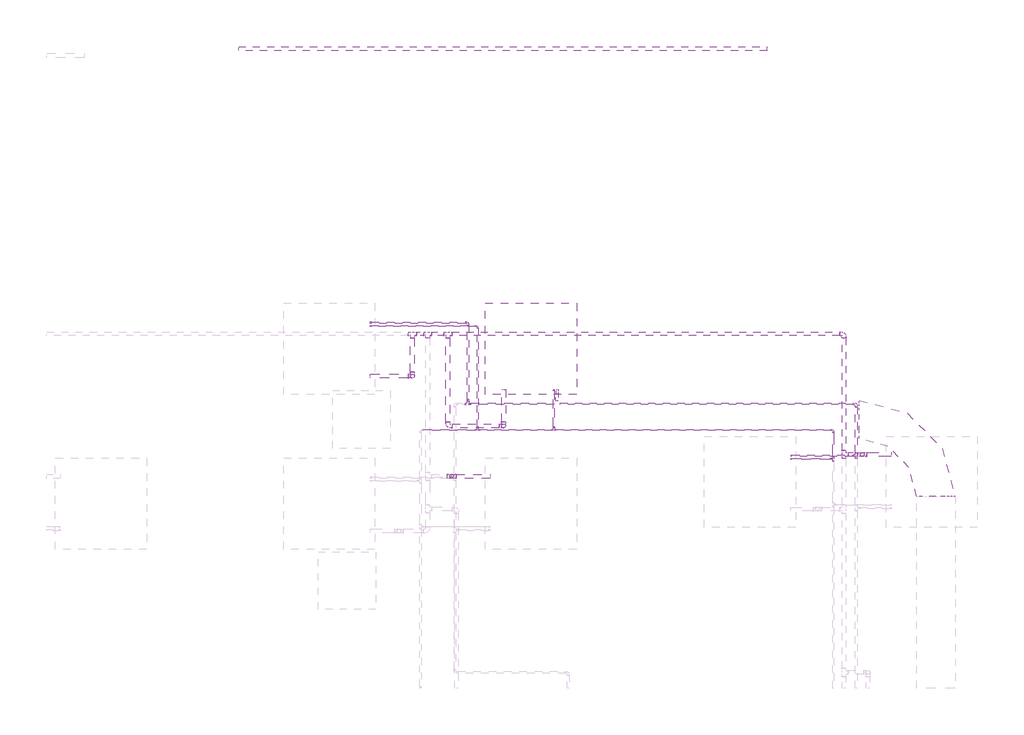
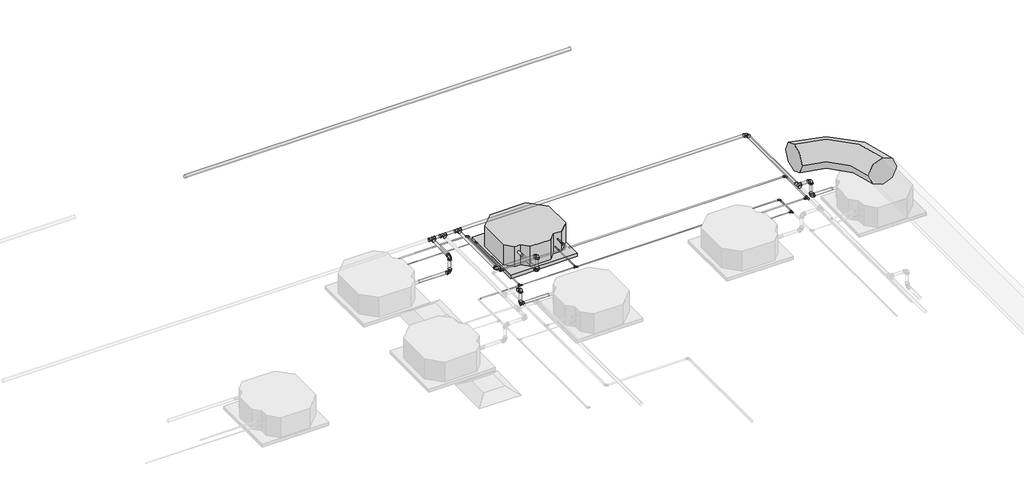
# One storey, part 22 of 22: 35 pipe fittings, 32 pipe segments, 1 duct fitting, 1 proxy.
"""IFC4 building model written with IfcOpenShell, lengths in millimetres."""

from ifc_helpers import new_model, si_unit, point, frame, frame_2d, origin, place, context, project, spatial, circle_curve, trimmed, segment, composite_curve, outline, extrude, transform, mapped, element, save
from components import mechanical_equipment_53173f38, duct_fitting_2_d_33ab650d, pipe_fitting_45771724, pipe_fitting_144f4440, pipe_fitting_14eb6376, pipe_fitting_103655aa, pipe_fitting_bac944c5, pipe_fitting_bc9da119, pipe_fitting_cf389c47, pipe_fitting_c900cfc2, pipe_fitting_16c020f5, pipe_fitting_0e110a5f, pipe_fitting_afe73776, pipe_fitting_09966660, pipe_fitting_501e5992, pipe_fitting_59d1f3e3, pipe_fitting_648138cd, pipe_fitting_58ab9b66, pipe_fitting_da16c1b3, pipe_fitting_5a6d96d3, pipe_fitting_3e80353c

model = new_model("IFC4")

# Units and contexts
model_context = context("Model", 3, world=origin())
ifc_project = project(units=[si_unit("LENGTHUNIT", "METRE", prefix="MILLI")], contexts=[model_context])

# Site, building, storey
site = spatial("IfcSite", under=ifc_project)
building = spatial("IfcBuilding", under=site)
storey = spatial("IfcBuildingStorey", under=building, Name="Nível 2", Elevation=3880.0)

# Proxy
placement = place(None, origin())
mechanical_equipment_shape = mechanical_equipment_53173f38(model_context)
element("IfcBuildingElementProxy", 1, Name="Midea_VRF_Indoor_4-way Cassette_MI-90(100,112,140)Q4_DHN1-D (2nd DC) : MI2-140Q4DHN1", ObjectType="Midea_VRF_Indoor_4-way Cassette_MI-90(100,112,140)Q4_DHN1-D (2nd DC) : MI2-140Q4DHN1", at=placement, inside=storey, context=model_context, shape_type="MappedRepresentation", body=[
    mapped(mechanical_equipment_shape, transform((25897.5040419, 9352.7445682, 6880.0), x_axis=(0.0, -1.0, 0.0), y_axis=(1.0, 0.0, 0.0), z_axis=(0.0, 0.0, 1.0))),
])

# Duct fitting
duct_fitting_2_d_shape = duct_fitting_2_d_33ab650d(model_context)
element("IfcDuctFitting", 2, ObjectType="M_Cotovelo redondo : 2 D", at=placement, inside=storey, context=model_context, shape_type="MappedRepresentation", body=[
    mapped(duct_fitting_2_d_shape, transform((30114.7064473, 8616.6989842, 7501.0), x_axis=(0.0, 1.0, 0.0), y_axis=(-1.0, 0.0, 0.0), z_axis=(0.0, 0.0, 1.0))),
])

# Pipe fittings
pipe_fitting_shape = pipe_fitting_45771724(model_context)
element("IfcPipeFitting", 3, ObjectType="Cotovelo - PVC - CW : Padrão", at=placement, inside=storey, context=model_context, shape_type="MappedRepresentation", body=[
    mapped(pipe_fitting_shape, transform((25612.5040419, 8547.7445683, 7132.3), x_axis=(0.0, -0.9999999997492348, -2.239487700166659e-05), y_axis=(0.0, -2.239487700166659e-05, 0.9999999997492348), z_axis=(-1.0, 0.0, 0.0))),
])
pipe_fitting_2_shape = pipe_fitting_144f4440(model_context)
element("IfcPipeFitting", 4, ObjectType="Cotovelo - PVC - CW : Padrão", at=placement, inside=storey, context=model_context, shape_type="MappedRepresentation", body=[
    mapped(pipe_fitting_2_shape, transform((29157.3882959, 9508.652743, 7360.6313654), x_axis=(0.0, 1.0, 0.0), y_axis=(-1.0, 0.0, 0.0), z_axis=(0.0, 0.0, 1.0))),
])
element("IfcPipeFitting", 5, ObjectType="Cotovelo - PVC - CW : Padrão", at=placement, inside=storey, context=model_context, shape_type="MappedRepresentation", body=[
    mapped(pipe_fitting_2_shape, transform((25612.5040419, 8547.7445683, 7360.6313654), x_axis=(0.0, 0.0, 1.0), y_axis=(-1.0, 0.0, 0.0), z_axis=(0.0, -1.0, 0.0))),
])
element("IfcPipeFitting", 6, ObjectType="Cotovelo - PVC - CW : Padrão", at=placement, inside=storey, context=model_context, shape_type="MappedRepresentation", body=[
    mapped(pipe_fitting_2_shape, transform((25032.5040419, 8547.7445683, 7360.6313654), x_axis=(0.0, -1.0, 0.0), y_axis=(1.0, 0.0, 0.0), z_axis=(0.0, 0.0, 1.0))),
])
element("IfcPipeFitting", 7, ObjectType="Cotovelo - PVC - CW : Padrão", at=placement, inside=storey, context=model_context, shape_type="MappedRepresentation", body=[
    mapped(pipe_fitting_2_shape, transform((24662.5040418, 9067.7445682, 7360.6313654), x_axis=(0.0, 0.0, 1.0), y_axis=(0.0, 1.0, 0.0), z_axis=(-1.0, 0.0, 0.0))),
])
element("IfcPipeFitting", 8, ObjectType="Cotovelo - PVC - CW : Padrão", at=placement, inside=storey, context=model_context, shape_type="MappedRepresentation", body=[
    mapped(pipe_fitting_2_shape, transform((25072.504042, 8023.4946683, 7360.6313654), x_axis=(0.0, 0.0, 1.0), y_axis=(-1.0, 0.0, 0.0), z_axis=(0.0, -1.0, 0.0))),
])
element("IfcPipeFitting", 9, ObjectType="Cotovelo - PVC - CW : Padrão", at=placement, inside=storey, context=model_context, shape_type="MappedRepresentation", body=[
    mapped(pipe_fitting_2_shape, transform((29348.0094067, 8251.525628, 7360.6313654), x_axis=(0.0, 0.0, 1.0), y_axis=(-1.0, 0.0, 0.0), z_axis=(0.0, -1.0, 0.0))),
])
pipe_fitting_3_shape = pipe_fitting_14eb6376(model_context)
element("IfcPipeFitting", 10, ObjectType="Tê de redução - PVC - CW : Padrão", at=placement, inside=storey, context=model_context, shape_type="MappedRepresentation", body=[
    mapped(pipe_fitting_3_shape, transform((25032.5040419, 9508.652743, 7360.6313654), x_axis=(1.0, 0.0, 0.0), y_axis=(0.0, 1.0, 0.0), z_axis=(0.0, 0.0, 1.0))),
])
element("IfcPipeFitting", 11, ObjectType="Tê de redução - PVC - CW : Padrão", at=placement, inside=storey, context=model_context, shape_type="MappedRepresentation", body=[
    mapped(pipe_fitting_3_shape, transform((24662.5040418, 9508.652743, 7360.6313654), x_axis=(1.0, 0.0, 0.0), y_axis=(0.0, 1.0, 0.0), z_axis=(0.0, 0.0, 1.0))),
])
element("IfcPipeFitting", 12, ObjectType="Tê de redução - PVC - CW : Padrão", at=placement, inside=storey, context=model_context, shape_type="MappedRepresentation", body=[
    mapped(pipe_fitting_3_shape, transform((24822.5040418, 9508.652743, 7360.6313654), x_axis=(1.0, 0.0, 0.0), y_axis=(0.0, 1.0, 0.0), z_axis=(0.0, 0.0, 1.0))),
])
element("IfcPipeFitting", 13, ObjectType="Tê de redução - PVC - CW : Padrão", at=placement, inside=storey, context=model_context, shape_type="MappedRepresentation", body=[
    mapped(pipe_fitting_3_shape, transform((29157.3882959, 8251.525628, 7360.6313654), x_axis=(0.0, 1.0, 0.0), y_axis=(-1.0, 0.0, 0.0), z_axis=(0.0, 0.0, 1.0))),
])
pipe_fitting_4_shape = pipe_fitting_103655aa(model_context)
element("IfcPipeFitting", 14, ObjectType="Cotovelo - PVC - CW : Padrão", at=placement, inside=storey, context=model_context, shape_type="MappedRepresentation", body=[
    mapped(pipe_fitting_4_shape, transform((29348.0094067, 8251.525628, 7132.3), x_axis=(-0.9999999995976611, 0.0, -2.83668442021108e-05), y_axis=(-2.83668442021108e-05, 0.0, 0.9999999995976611), z_axis=(0.0, 1.0, 0.0))),
])
pipe_fitting_5_shape = pipe_fitting_bac944c5(model_context)
element("IfcPipeFitting", 15, ObjectType="Cotovelo - PVC - CW : Padrão", at=placement, inside=storey, context=model_context, shape_type="MappedRepresentation", body=[
    mapped(pipe_fitting_5_shape, transform((25072.504042, 8023.4946683, 7132.3), x_axis=(-0.9999999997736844, 0.0, -2.127513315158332e-05), y_axis=(-2.127513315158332e-05, 0.0, 0.9999999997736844), z_axis=(0.0, 1.0, 0.0))),
])
pipe_fitting_6_shape = pipe_fitting_bc9da119(model_context)
element("IfcPipeFitting", 16, ObjectType="Cotovelo - PVC - CW : Padrão", at=placement, inside=storey, context=model_context, shape_type="MappedRepresentation", body=[
    mapped(pipe_fitting_6_shape, transform((24662.5040418, 9067.7445682, 7132.3), x_axis=(0.9999999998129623, 0.0, -1.9341030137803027e-05), y_axis=(1.9341030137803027e-05, 0.0, 0.9999999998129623), z_axis=(0.0, -1.0, 0.0))),
])
pipe_fitting_7_shape = pipe_fitting_cf389c47(model_context)
element("IfcPipeFitting", 17, ObjectType="Redutor de acoplamento - PVC - CW : Padrão", at=placement, inside=storey, context=model_context, shape_type="MappedRepresentation", body=[
    mapped(pipe_fitting_7_shape, transform((26170.7148555, 8881.3625683, 7132.3047978), x_axis=(0.0, 0.9999999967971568, 8.003553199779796e-05), y_axis=(-1.0, 0.0, 0.0), z_axis=(0.0, -8.003553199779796e-05, 0.9999999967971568))),
])
pipe_fitting_8_shape = pipe_fitting_c900cfc2(model_context)
element("IfcPipeFitting", 18, ObjectType="Bucha de redução reta - Soldada - CU : Padrão", at=placement, inside=storey, context=model_context, shape_type="MappedRepresentation", body=[
    mapped(pipe_fitting_8_shape, transform((24222.5040419, 9625.9553818, 7132.3085101), x_axis=(1.0, 0.0, 0.0), y_axis=(0.0, 1.0, 0.0), z_axis=(0.0, 0.0, 1.0))),
])
pipe_fitting_9_shape = pipe_fitting_16c020f5(model_context)
element("IfcPipeFitting", 19, ObjectType="Cotovelo - Soldado - CU : Padrão", at=placement, inside=storey, context=model_context, shape_type="MappedRepresentation", body=[
    mapped(pipe_fitting_9_shape, transform((25242.5040418, 9625.9553818, 7132.3), x_axis=(0.0, 1.0, 0.0), y_axis=(-0.999999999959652, 0.0, 8.983093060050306e-06), z_axis=(8.983093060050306e-06, 0.0, 0.999999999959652))),
])
pipe_fitting_10_shape = pipe_fitting_0e110a5f(model_context)
element("IfcPipeFitting", 20, ObjectType="Cotovelo - Soldado - CU : Padrão", at=placement, inside=storey, context=model_context, shape_type="MappedRepresentation", body=[
    mapped(pipe_fitting_10_shape, transform((29286.1108591, 8779.9222462, 7132.3), x_axis=(0.0, 1.0, 0.0), y_axis=(-1.0, 0.0, 0.0), z_axis=(0.0, 0.0, 1.0))),
])
pipe_fitting_11_shape = pipe_fitting_afe73776(model_context)
element("IfcPipeFitting", 21, ObjectType="Bucha de redução reta - Soldada - CU : Padrão", at=placement, inside=storey, context=model_context, shape_type="MappedRepresentation", body=[
    mapped(pipe_fitting_11_shape, transform((25075.9503592, 8011.7054819, 7132.3003462), x_axis=(-0.9999999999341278, 0.0, 1.1478001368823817e-05), y_axis=(0.0, -1.0000000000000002, 0.0), z_axis=(1.1478001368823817e-05, 0.0, 0.9999999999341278))),
])
element("IfcPipeFitting", 22, ObjectType="Bucha de redução reta - Soldada - CU : Padrão", at=placement, inside=storey, context=model_context, shape_type="MappedRepresentation", body=[
    mapped(pipe_fitting_11_shape, transform((25242.5040418, 8810.0827462, 7132.3), x_axis=(0.0, 1.0, 0.0), y_axis=(-1.0, 0.0, 0.0), z_axis=(0.0, 0.0, 1.0))),
])
element("IfcPipeFitting", 23, ObjectType="Bucha de redução reta - Soldada - CU : Padrão", at=placement, inside=storey, context=model_context, shape_type="MappedRepresentation", body=[
    mapped(pipe_fitting_11_shape, transform((29255.9503592, 8239.7364417, 7132.3003888), x_axis=(-0.9999999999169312, 0.0, 1.2889435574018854e-05), y_axis=(0.0, -1.0, 0.0), z_axis=(1.2889435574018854e-05, 0.0, 0.9999999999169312))),
])
pipe_fitting_12_shape = pipe_fitting_09966660(model_context)
element("IfcPipeFitting", 24, ObjectType="Tê - Soldado - CU : Padrão", at=placement, inside=storey, context=model_context, shape_type="MappedRepresentation", body=[
    mapped(pipe_fitting_12_shape, transform((25242.5040418, 8779.9222462, 7132.3), x_axis=(1.0, 0.0, 0.0), y_axis=(0.0, -1.0, 0.0), z_axis=(0.0, 0.0, -1.0))),
])
element("IfcPipeFitting", 25, ObjectType="Tê - Soldado - CU : Padrão", at=placement, inside=storey, context=model_context, shape_type="MappedRepresentation", body=[
    mapped(pipe_fitting_12_shape, transform((29286.1108591, 8239.7364417, 7132.3), x_axis=(0.0, -1.0, 0.0), y_axis=(0.9999999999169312, 0.0, -1.2889435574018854e-05), z_axis=(1.2889435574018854e-05, 0.0, 0.9999999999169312))),
])
pipe_fitting_13_shape = pipe_fitting_501e5992(model_context)
element("IfcPipeFitting", 26, ObjectType="Bucha de redução reta - Soldada - CU : Padrão", at=placement, inside=storey, context=model_context, shape_type="MappedRepresentation", body=[
    mapped(pipe_fitting_13_shape, transform((28616.3511103, 8239.7364417, 7132.3083494), x_axis=(-0.9999999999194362, 0.0, 1.2693608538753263e-05), y_axis=(0.0, -1.0000000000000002, 0.0), z_axis=(1.2693608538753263e-05, 0.0, 0.9999999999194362))),
])
pipe_fitting_14_shape = pipe_fitting_59d1f3e3(model_context)
element("IfcPipeFitting", 27, ObjectType="Bucha de redução reta - Soldada - CU : Padrão", at=placement, inside=storey, context=model_context, shape_type="MappedRepresentation", body=[
    mapped(pipe_fitting_14_shape, transform((24222.5040419, 9592.15294, 7026.8446487), x_axis=(1.0, 0.0, 0.0), y_axis=(0.0, 1.0, 0.0), z_axis=(0.0, 0.0, 1.0))),
])
pipe_fitting_15_shape = pipe_fitting_648138cd(model_context)
element("IfcPipeFitting", 28, ObjectType="Cotovelo - Soldado - CU : Padrão", at=placement, inside=storey, context=model_context, shape_type="MappedRepresentation", body=[
    mapped(pipe_fitting_15_shape, transform((25342.5040419, 9592.15294, 7026.8446487), x_axis=(0.0, 1.0, 0.0), y_axis=(-1.0, 0.0, 0.0), z_axis=(0.0, 0.0, 1.0))),
])
pipe_fitting_16_shape = pipe_fitting_58ab9b66(model_context)
element("IfcPipeFitting", 29, ObjectType="Bucha de redução reta - Soldada - CU : Padrão", at=placement, inside=storey, context=model_context, shape_type="MappedRepresentation", body=[
    mapped(pipe_fitting_16_shape, transform((28613.3666103, 8205.9339999, 7026.8446487), x_axis=(-1.0, 0.0, 0.0), y_axis=(0.0, -1.0, 0.0), z_axis=(0.0, 0.0, 1.0))),
])
element("IfcPipeFitting", 30, ObjectType="Bucha de redução reta - Soldada - CU : Padrão", at=placement, inside=storey, context=model_context, shape_type="MappedRepresentation", body=[
    mapped(pipe_fitting_16_shape, transform((26136.9124137, 8918.0701682, 7026.8446487), x_axis=(0.0, 1.0, 0.0), y_axis=(-1.0, 0.0, 0.0), z_axis=(0.0, 0.0, 1.0))),
])
pipe_fitting_17_shape = pipe_fitting_da16c1b3(model_context)
element("IfcPipeFitting", 31, ObjectType="Tê - Soldado - CU : Padrão", at=placement, inside=storey, context=model_context, shape_type="MappedRepresentation", body=[
    mapped(pipe_fitting_17_shape, transform((29046.1108592, 8205.9339999, 7026.8446487), x_axis=(0.0, -1.0, 0.0), y_axis=(1.0, 0.0, 0.0), z_axis=(0.0, 0.0, 1.0))),
])
element("IfcPipeFitting", 32, ObjectType="Tê - Soldado - CU : Padrão", at=placement, inside=storey, context=model_context, shape_type="MappedRepresentation", body=[
    mapped(pipe_fitting_17_shape, transform((26136.9124137, 8506.1198044, 7026.8446487), x_axis=(1.0, 0.0, 0.0), y_axis=(0.0, -1.0, 0.0), z_axis=(0.0, 0.0, -1.0))),
])
element("IfcPipeFitting", 33, ObjectType="Tê - Soldado - CU : Padrão", at=placement, inside=storey, context=model_context, shape_type="MappedRepresentation", body=[
    mapped(pipe_fitting_17_shape, transform((25342.5040419, 8506.1198044, 7026.8446487), x_axis=(1.0, 0.0, 0.0), y_axis=(0.0, -1.0, 0.0), z_axis=(0.0, 0.0, -1.0))),
])
pipe_fitting_18_shape = pipe_fitting_5a6d96d3(model_context)
element("IfcPipeFitting", 34, ObjectType="Bucha de redução reta - Soldada - CU : Padrão", at=placement, inside=storey, context=model_context, shape_type="MappedRepresentation", body=[
    mapped(pipe_fitting_18_shape, transform((29021.0938592, 8205.9339999, 7026.8446487), x_axis=(-1.0, 0.0, 0.0), y_axis=(0.0, -1.0, 0.0), z_axis=(0.0, 0.0, 1.0))),
])
element("IfcPipeFitting", 35, ObjectType="Bucha de redução reta - Soldada - CU : Padrão", at=placement, inside=storey, context=model_context, shape_type="MappedRepresentation", body=[
    mapped(pipe_fitting_18_shape, transform((26136.9124137, 8531.1368044, 7026.8446487), x_axis=(0.0, 1.0, 0.0), y_axis=(-1.0, 0.0, 0.0), z_axis=(0.0, 0.0, 1.0))),
])
element("IfcPipeFitting", 36, ObjectType="Bucha de redução reta - Soldada - CU : Padrão", at=placement, inside=storey, context=model_context, shape_type="MappedRepresentation", body=[
    mapped(pipe_fitting_18_shape, transform((25342.5040419, 8531.1368044, 7026.8446487), x_axis=(0.0, 1.0, 0.0), y_axis=(-1.0, 0.0, 0.0), z_axis=(0.0, 0.0, 1.0))),
])
pipe_fitting_19_shape = pipe_fitting_3e80353c(model_context)
element("IfcPipeFitting", 37, ObjectType="Cotovelo - Soldado - CU : Padrão", at=placement, inside=storey, context=model_context, shape_type="MappedRepresentation", body=[
    mapped(pipe_fitting_19_shape, transform((29046.1108592, 8506.1198044, 7026.8446487), x_axis=(0.0, 1.0, 0.0), y_axis=(-1.0, 0.0, 0.0), z_axis=(0.0, 0.0, 1.0))),
])

# Pipe segments
element("IfcPipeSegment", 38, ObjectType="Tubos de cobre HVAC", at=placement, inside=storey, context=model_context, shape_type="SweptSolid", body=[
    extrude(outline(composite_curve([segment(trimmed(circle_curve(frame_2d((7132.3, 29286.1108591)), 9.525), [point((7132.3, 29295.6358591))], [point((7141.825, 29286.1108591))], False, "CARTESIAN"), True, "CONTINUOUS"), segment(trimmed(circle_curve(frame_2d((7132.3, 29286.1108591)), 9.525), [point((7141.825, 29286.1108591))], [point((7132.3, 29276.5858591))], False, "CARTESIAN"), True, "CONTINUOUS"), segment(trimmed(circle_curve(frame_2d((7132.3, 29286.1108591)), 9.525), [point((7132.3, 29276.5858591))], [point((7122.775, 29286.1108591))], False, "CARTESIAN"), True, "CONTINUOUS"), segment(trimmed(circle_curve(frame_2d((7132.3, 29286.1108591)), 9.525), [point((7122.775, 29286.1108591))], [point((7132.3, 29295.6358591))], False, "CARTESIAN"), True, "CONTINUOUS")], self_intersect=False)), frame((0.0, 8269.9316917, 0.0), z_axis=(0.0, 1.0, 0.0), x_axis=(0.0, 0.0, 1.0)), (0.0, 0.0, 1.0), 478.5315545),
])
element("IfcPipeSegment", 39, ObjectType="Tubos de cobre HVAC", at=placement, inside=storey, context=model_context, shape_type="SweptSolid", body=[
    extrude(outline(composite_curve([segment(trimmed(circle_curve(frame_2d((0.0, -7.935)), 7.935), [point((-7.935, -7.935))], [point((0.0, 0.0))], False, "CARTESIAN"), True, "CONTINUOUS"), segment(trimmed(circle_curve(frame_2d((0.0, -7.935)), 7.935), [point((0.0, 0.0))], [point((7.935, -7.935))], False, "CARTESIAN"), True, "CONTINUOUS"), segment(trimmed(circle_curve(frame_2d((0.0, -7.935)), 7.935), [point((7.935, -7.935))], [point((0.0, -15.87))], False, "CARTESIAN"), True, "CONTINUOUS"), segment(trimmed(circle_curve(frame_2d((0.0, -7.935)), 7.935), [point((0.0, -15.87))], [point((-7.935, -7.935))], False, "CARTESIAN"), True, "CONTINUOUS")], self_intersect=False)), frame((25213.5253749, 9625.9553818, 7124.3652603), z_axis=(-0.9999999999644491, 0.0, 8.432187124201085e-06), x_axis=(0.0, 1.0, 0.0)), (0.0, 0.0, 1.0), 978.3625),
])
element("IfcPipeSegment", 40, ObjectType="Tubos de cobre HVAC", at=placement, inside=storey, context=model_context, shape_type="SweptSolid", body=[
    extrude(outline(composite_curve([segment(trimmed(circle_curve(frame_2d((7132.3, 25242.5040418)), 7.935), [point((7132.3, 25250.4390418))], [point((7140.235, 25242.5040418))], False, "CARTESIAN"), True, "CONTINUOUS"), segment(trimmed(circle_curve(frame_2d((7132.3, 25242.5040418)), 7.935), [point((7140.235, 25242.5040418))], [point((7132.3, 25234.5690418))], False, "CARTESIAN"), True, "CONTINUOUS"), segment(trimmed(circle_curve(frame_2d((7132.3, 25242.5040418)), 7.935), [point((7132.3, 25234.5690418))], [point((7124.365, 25242.5040418))], False, "CARTESIAN"), True, "CONTINUOUS"), segment(trimmed(circle_curve(frame_2d((7132.3, 25242.5040418)), 7.935), [point((7124.365, 25242.5040418))], [point((7132.3, 25250.4390418))], False, "CARTESIAN"), True, "CONTINUOUS")], self_intersect=False)), frame((0.0, 8822.7416462, 0.0), z_axis=(0.0, 1.0, 0.0), x_axis=(0.0, 0.0, 1.0)), (0.0, 0.0, 1.0), 774.2351356),
])
element("IfcPipeSegment", 41, ObjectType="Tubos de cobre HVAC", at=placement, inside=storey, context=model_context, shape_type="SweptSolid", body=[
    extrude(outline(composite_curve([segment(trimmed(circle_curve(frame_2d((8779.9222462, 7132.3)), 9.525), [point((8789.4472462, 7132.3))], [point((8779.9222462, 7122.775))], False, "CARTESIAN"), True, "CONTINUOUS"), segment(trimmed(circle_curve(frame_2d((8779.9222462, 7132.3)), 9.525), [point((8779.9222462, 7122.775))], [point((8770.3972462, 7132.3))], False, "CARTESIAN"), True, "CONTINUOUS"), segment(trimmed(circle_curve(frame_2d((8779.9222462, 7132.3)), 9.525), [point((8770.3972462, 7132.3))], [point((8779.9222462, 7141.825))], False, "CARTESIAN"), True, "CONTINUOUS"), segment(trimmed(circle_curve(frame_2d((8779.9222462, 7132.3)), 9.525), [point((8779.9222462, 7141.825))], [point((8789.4472462, 7132.3))], False, "CARTESIAN"), True, "CONTINUOUS")], self_intersect=False)), frame((25272.6992918, 0.0, 0.0), z_axis=(1.0, 0.0, 0.0), x_axis=(0.0, 1.0, 0.0)), (0.0, 0.0, 1.0), 865.8773187),
])
element("IfcPipeSegment", 42, ObjectType="Tubos de cobre HVAC", at=placement, inside=storey, context=model_context, shape_type="SweptSolid", body=[
    extrude(outline(composite_curve([segment(trimmed(circle_curve(frame_2d((0.0, 7.935)), 7.935), [point((-7.935, 7.935))], [point((0.0, 15.87))], False, "CARTESIAN"), True, "CONTINUOUS"), segment(trimmed(circle_curve(frame_2d((0.0, 7.935)), 7.935), [point((0.0, 15.87))], [point((7.935, 7.935))], False, "CARTESIAN"), True, "CONTINUOUS"), segment(trimmed(circle_curve(frame_2d((0.0, 7.935)), 7.935), [point((7.935, 7.935))], [point((0.0, 0.0))], False, "CARTESIAN"), True, "CONTINUOUS"), segment(trimmed(circle_curve(frame_2d((0.0, 7.935)), 7.935), [point((0.0, 0.0))], [point((-7.935, 7.935))], False, "CARTESIAN"), True, "CONTINUOUS")], self_intersect=False)), frame((29243.2913584, 8239.7364417, 7124.3655519), z_axis=(-0.9999999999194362, 0.0, 1.2693608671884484e-05), x_axis=(0.0, -1.0, 0.0)), (0.0, 0.0, 1.0), 626.9403489),
])
element("IfcPipeSegment", 43, ObjectType="Tubos de cobre HVAC", at=placement, inside=storey, context=model_context, shape_type="SweptSolid", body=[
    extrude(outline(composite_curve([segment(trimmed(circle_curve(frame_2d((7026.8446487, 29046.1108592)), 6.35), [point((7026.8446487, 29052.4608592))], [point((7033.1946487, 29046.1108592))], False, "CARTESIAN"), True, "CONTINUOUS"), segment(trimmed(circle_curve(frame_2d((7026.8446487, 29046.1108592)), 6.35), [point((7033.1946487, 29046.1108592))], [point((7026.8446487, 29039.7608592))], False, "CARTESIAN"), True, "CONTINUOUS"), segment(trimmed(circle_curve(frame_2d((7026.8446487, 29046.1108592)), 6.35), [point((7026.8446487, 29039.7608592))], [point((7020.4946487, 29046.1108592))], False, "CARTESIAN"), True, "CONTINUOUS"), segment(trimmed(circle_curve(frame_2d((7026.8446487, 29046.1108592)), 6.35), [point((7020.4946487, 29046.1108592))], [point((7026.8446487, 29052.4608592))], False, "CARTESIAN"), True, "CONTINUOUS")], self_intersect=False)), frame((0.0, 8231.0174999, 0.0), z_axis=(0.0, 1.0, 0.0), x_axis=(0.0, 0.0, 1.0)), (0.0, 0.0, 1.0), 248.5963045),
])
element("IfcPipeSegment", 44, ObjectType="Tubos de cobre HVAC", at=placement, inside=storey, context=model_context, shape_type="SweptSolid", body=[
    extrude(outline(composite_curve([segment(trimmed(circle_curve(frame_2d((8506.1198044, 7026.8446487)), 6.35), [point((8512.4698044, 7026.8446487))], [point((8506.1198044, 7020.4946487))], False, "CARTESIAN"), True, "CONTINUOUS"), segment(trimmed(circle_curve(frame_2d((8506.1198044, 7026.8446487)), 6.35), [point((8506.1198044, 7020.4946487))], [point((8499.7698044, 7026.8446487))], False, "CARTESIAN"), True, "CONTINUOUS"), segment(trimmed(circle_curve(frame_2d((8506.1198044, 7026.8446487)), 6.35), [point((8499.7698044, 7026.8446487))], [point((8506.1198044, 7033.1946487))], False, "CARTESIAN"), True, "CONTINUOUS"), segment(trimmed(circle_curve(frame_2d((8506.1198044, 7026.8446487)), 6.35), [point((8506.1198044, 7033.1946487))], [point((8512.4698044, 7026.8446487))], False, "CARTESIAN"), True, "CONTINUOUS")], self_intersect=False)), frame((24772.6168592, 0.0, 0.0), z_axis=(1.0, 0.0, 0.0), x_axis=(0.0, 1.0, 0.0)), (0.0, 0.0, 1.0), 544.8036827),
])
element("IfcPipeSegment", 45, ObjectType="Tubos de cobre HVAC", at=placement, inside=storey, context=model_context, shape_type="SweptSolid", body=[
    extrude(outline(composite_curve([segment(trimmed(circle_curve(frame_2d((8205.9339999, 7026.8446487)), 4.76), [point((8210.6939999, 7026.8446487))], [point((8205.9339999, 7022.0846487))], False, "CARTESIAN"), True, "CONTINUOUS"), segment(trimmed(circle_curve(frame_2d((8205.9339999, 7026.8446487)), 4.76), [point((8205.9339999, 7022.0846487))], [point((8201.1739999, 7026.8446487))], False, "CARTESIAN"), True, "CONTINUOUS"), segment(trimmed(circle_curve(frame_2d((8205.9339999, 7026.8446487)), 4.76), [point((8201.1739999, 7026.8446487))], [point((8205.9339999, 7031.6046487))], False, "CARTESIAN"), True, "CONTINUOUS"), segment(trimmed(circle_curve(frame_2d((8205.9339999, 7026.8446487)), 4.76), [point((8205.9339999, 7031.6046487))], [point((8210.6939999, 7026.8446487))], False, "CARTESIAN"), True, "CONTINUOUS")], self_intersect=False)), frame((28613.3666103, 0.0, 0.0), z_axis=(1.0, 0.0, 0.0), x_axis=(0.0, 1.0, 0.0)), (0.0, 0.0, 1.0), 398.0528488),
])
element("IfcPipeSegment", 46, ObjectType="Tubos de cobre HVAC", at=placement, inside=storey, context=model_context, shape_type="SweptSolid", body=[
    extrude(outline(composite_curve([segment(trimmed(circle_curve(frame_2d((7026.8446487, 26136.9124137)), 4.76), [point((7026.8446487, 26141.6724137))], [point((7031.6046487, 26136.9124137))], False, "CARTESIAN"), True, "CONTINUOUS"), segment(trimmed(circle_curve(frame_2d((7026.8446487, 26136.9124137)), 4.76), [point((7031.6046487, 26136.9124137))], [point((7026.8446487, 26132.1524137))], False, "CARTESIAN"), True, "CONTINUOUS"), segment(trimmed(circle_curve(frame_2d((7026.8446487, 26136.9124137)), 4.76), [point((7026.8446487, 26132.1524137))], [point((7022.0846487, 26136.9124137))], False, "CARTESIAN"), True, "CONTINUOUS"), segment(trimmed(circle_curve(frame_2d((7026.8446487, 26136.9124137)), 4.76), [point((7022.0846487, 26136.9124137))], [point((7026.8446487, 26141.6724137))], False, "CARTESIAN"), True, "CONTINUOUS")], self_intersect=False)), frame((0.0, 8540.8112044, 0.0), z_axis=(0.0, 1.0, 0.0), x_axis=(0.0, 0.0, 1.0)), (0.0, 0.0, 1.0), 377.2589638),
])
element("IfcPipeSegment", 47, ObjectType="Tubos de cobre HVAC", at=placement, inside=storey, context=model_context, shape_type="SweptSolid", body=[
    extrude(outline(composite_curve([segment(trimmed(circle_curve(frame_2d((8506.1198044, 7026.8446487)), 6.35), [point((8512.4698044, 7026.8446487))], [point((8506.1198044, 7020.4946487))], False, "CARTESIAN"), True, "CONTINUOUS"), segment(trimmed(circle_curve(frame_2d((8506.1198044, 7026.8446487)), 6.35), [point((8506.1198044, 7020.4946487))], [point((8499.7698044, 7026.8446487))], False, "CARTESIAN"), True, "CONTINUOUS"), segment(trimmed(circle_curve(frame_2d((8506.1198044, 7026.8446487)), 6.35), [point((8499.7698044, 7026.8446487))], [point((8506.1198044, 7033.1946487))], False, "CARTESIAN"), True, "CONTINUOUS"), segment(trimmed(circle_curve(frame_2d((8506.1198044, 7026.8446487)), 6.35), [point((8506.1198044, 7033.1946487))], [point((8512.4698044, 7026.8446487))], False, "CARTESIAN"), True, "CONTINUOUS")], self_intersect=False)), frame((26161.9959137, 0.0, 0.0), z_axis=(1.0, 0.0, 0.0), x_axis=(0.0, 1.0, 0.0)), (0.0, 0.0, 1.0), 2857.6089455),
])
element("IfcPipeSegment", 48, ObjectType="Tubos de cobre HVAC", at=placement, inside=storey, context=model_context, shape_type="SweptSolid", body=[
    extrude(outline(composite_curve([segment(trimmed(circle_curve(frame_2d((9592.15294, 7026.8446487)), 4.76), [point((9587.39294, 7026.8446487))], [point((9592.15294, 7031.6046487))], False, "CARTESIAN"), True, "CONTINUOUS"), segment(trimmed(circle_curve(frame_2d((9592.15294, 7026.8446487)), 4.76), [point((9592.15294, 7031.6046487))], [point((9596.91294, 7026.8446487))], False, "CARTESIAN"), True, "CONTINUOUS"), segment(trimmed(circle_curve(frame_2d((9592.15294, 7026.8446487)), 4.76), [point((9596.91294, 7026.8446487))], [point((9592.15294, 7022.0846487))], False, "CARTESIAN"), True, "CONTINUOUS"), segment(trimmed(circle_curve(frame_2d((9592.15294, 7026.8446487)), 4.76), [point((9592.15294, 7022.0846487))], [point((9587.39294, 7026.8446487))], False, "CARTESIAN"), True, "CONTINUOUS")], self_intersect=False)), frame((24232.1784419, 0.0, 0.0), z_axis=(1.0, 0.0, 0.0), x_axis=(0.0, 1.0, 0.0)), (0.0, 0.0, 1.0), 1086.3),
])
element("IfcPipeSegment", 49, ObjectType="Tubos de cobre HVAC", at=placement, inside=storey, context=model_context, shape_type="SweptSolid", body=[
    extrude(outline(composite_curve([segment(trimmed(circle_curve(frame_2d((7026.8446487, 25342.5040419)), 4.76), [point((7026.8446487, 25347.2640419))], [point((7031.6046487, 25342.5040419))], False, "CARTESIAN"), True, "CONTINUOUS"), segment(trimmed(circle_curve(frame_2d((7026.8446487, 25342.5040419)), 4.76), [point((7031.6046487, 25342.5040419))], [point((7026.8446487, 25337.7440419))], False, "CARTESIAN"), True, "CONTINUOUS"), segment(trimmed(circle_curve(frame_2d((7026.8446487, 25342.5040419)), 4.76), [point((7026.8446487, 25337.7440419))], [point((7022.0846487, 25342.5040419))], False, "CARTESIAN"), True, "CONTINUOUS"), segment(trimmed(circle_curve(frame_2d((7026.8446487, 25342.5040419)), 4.76), [point((7022.0846487, 25342.5040419))], [point((7026.8446487, 25347.2640419))], False, "CARTESIAN"), True, "CONTINUOUS")], self_intersect=False)), frame((0.0, 8540.8112044, 0.0), z_axis=(0.0, 1.0, 0.0), x_axis=(0.0, 0.0, 1.0)), (0.0, 0.0, 1.0), 1027.3161356),
])
element("IfcPipeSegment", 50, ObjectType="Tubos de cobre HVAC", at=placement, inside=storey, context=model_context, shape_type="SweptSolid", body=[
    extrude(outline(composite_curve([segment(trimmed(circle_curve(frame_2d((8506.1198044, 7026.8446487)), 6.35), [point((8512.4698044, 7026.8446487))], [point((8506.1198044, 7020.4946487))], False, "CARTESIAN"), True, "CONTINUOUS"), segment(trimmed(circle_curve(frame_2d((8506.1198044, 7026.8446487)), 6.35), [point((8506.1198044, 7020.4946487))], [point((8499.7698044, 7026.8446487))], False, "CARTESIAN"), True, "CONTINUOUS"), segment(trimmed(circle_curve(frame_2d((8506.1198044, 7026.8446487)), 6.35), [point((8499.7698044, 7026.8446487))], [point((8506.1198044, 7033.1946487))], False, "CARTESIAN"), True, "CONTINUOUS"), segment(trimmed(circle_curve(frame_2d((8506.1198044, 7026.8446487)), 6.35), [point((8506.1198044, 7033.1946487))], [point((8512.4698044, 7026.8446487))], False, "CARTESIAN"), True, "CONTINUOUS")], self_intersect=False)), frame((25367.5875419, 0.0, 0.0), z_axis=(1.0, 0.0, 0.0), x_axis=(0.0, 1.0, 0.0)), (0.0, 0.0, 1.0), 744.2413718),
])
element("IfcPipeSegment", 51, ObjectType="Plástico", at=placement, inside=storey, context=model_context, shape_type="SweptSolid", body=[
    extrude(outline(composite_curve([segment(trimmed(circle_curve(frame_2d((0.0, -20.0)), 20.0), [point((0.0, 0.0))], [point((20.0, -20.0))], False, "CARTESIAN"), True, "CONTINUOUS"), segment(trimmed(circle_curve(frame_2d((0.0, -20.0)), 20.0), [point((20.0, -20.0))], [point((0.0, -40.0))], False, "CARTESIAN"), True, "CONTINUOUS"), segment(trimmed(circle_curve(frame_2d((0.0, -20.0)), 20.0), [point((0.0, -40.0))], [point((-20.0, -20.0))], False, "CARTESIAN"), True, "CONTINUOUS"), segment(trimmed(circle_curve(frame_2d((0.0, -20.0)), 20.0), [point((-20.0, -20.0))], [point((0.0, 0.0))], False, "CARTESIAN"), True, "CONTINUOUS")], self_intersect=False)), frame((25592.5040419, 8592.7450833, 7132.3010078), z_axis=(0.0, 0.9999999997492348, 2.2394877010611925e-05), x_axis=(0.0, 2.2394877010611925e-05, -0.9999999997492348)), (0.0, 0.0, 1.0), 334.9994849),
])
element("IfcPipeSegment", 52, ObjectType="Plástico", at=placement, inside=storey, context=model_context, shape_type="SweptSolid", body=[
    extrude(outline(composite_curve([segment(trimmed(circle_curve(frame_2d((25612.5040419, 8547.7445683)), 20.0), [point((25632.5040419, 8547.7445683))], [point((25612.5040419, 8527.7445683))], False, "CARTESIAN"), True, "CONTINUOUS"), segment(trimmed(circle_curve(frame_2d((25612.5040419, 8547.7445683)), 20.0), [point((25612.5040419, 8527.7445683))], [point((25592.5040419, 8547.7445683))], False, "CARTESIAN"), True, "CONTINUOUS"), segment(trimmed(circle_curve(frame_2d((25612.5040419, 8547.7445683)), 20.0), [point((25592.5040419, 8547.7445683))], [point((25612.5040419, 8567.7445683))], False, "CARTESIAN"), True, "CONTINUOUS"), segment(trimmed(circle_curve(frame_2d((25612.5040419, 8547.7445683)), 20.0), [point((25612.5040419, 8567.7445683))], [point((25632.5040419, 8547.7445683))], False, "CARTESIAN"), True, "CONTINUOUS")], self_intersect=False)), frame((0.0, 0.0, 7177.3005151), z_axis=(0.0, 0.0, 1.0), x_axis=(1.0, 0.0, 0.0)), (0.0, 0.0, 1.0), 138.3308503),
])
element("IfcPipeSegment", 53, ObjectType="Plástico", at=placement, inside=storey, context=model_context, shape_type="SweptSolid", body=[
    extrude(outline(composite_curve([segment(trimmed(circle_curve(frame_2d((8547.7445683, 7360.6313654)), 20.0), [point((8567.7445683, 7360.6313654))], [point((8547.7445683, 7340.6313654))], False, "CARTESIAN"), True, "CONTINUOUS"), segment(trimmed(circle_curve(frame_2d((8547.7445683, 7360.6313654)), 20.0), [point((8547.7445683, 7340.6313654))], [point((8527.7445683, 7360.6313654))], False, "CARTESIAN"), True, "CONTINUOUS"), segment(trimmed(circle_curve(frame_2d((8547.7445683, 7360.6313654)), 20.0), [point((8527.7445683, 7360.6313654))], [point((8547.7445683, 7380.6313654))], False, "CARTESIAN"), True, "CONTINUOUS"), segment(trimmed(circle_curve(frame_2d((8547.7445683, 7360.6313654)), 20.0), [point((8547.7445683, 7380.6313654))], [point((8567.7445683, 7360.6313654))], False, "CARTESIAN"), True, "CONTINUOUS")], self_intersect=False)), frame((25077.5040419, 0.0, 0.0), z_axis=(1.0, 0.0, 0.0), x_axis=(0.0, 1.0, 0.0)), (0.0, 0.0, 1.0), 490.0),
])
element("IfcPipeSegment", 54, ObjectType="Plástico", at=placement, inside=storey, context=model_context, shape_type="SweptSolid", body=[
    extrude(outline(composite_curve([segment(trimmed(circle_curve(frame_2d((7360.6313654, 25032.5040419)), 20.0), [point((7360.6313654, 25012.5040419))], [point((7340.6313654, 25032.5040419))], False, "CARTESIAN"), True, "CONTINUOUS"), segment(trimmed(circle_curve(frame_2d((7360.6313654, 25032.5040419)), 20.0), [point((7340.6313654, 25032.5040419))], [point((7360.6313654, 25052.5040419))], False, "CARTESIAN"), True, "CONTINUOUS"), segment(trimmed(circle_curve(frame_2d((7360.6313654, 25032.5040419)), 20.0), [point((7360.6313654, 25052.5040419))], [point((7380.6313654, 25032.5040419))], False, "CARTESIAN"), True, "CONTINUOUS"), segment(trimmed(circle_curve(frame_2d((7360.6313654, 25032.5040419)), 20.0), [point((7380.6313654, 25032.5040419))], [point((7360.6313654, 25012.5040419))], False, "CARTESIAN"), True, "CONTINUOUS")], self_intersect=False)), frame((0.0, 8592.7445683, 0.0), z_axis=(0.0, 1.0, 0.0), x_axis=(0.0, 0.0, 1.0)), (0.0, 0.0, 1.0), 871.9081747),
])
element("IfcPipeSegment", 55, ObjectType="Plástico", at=placement, inside=storey, context=model_context, shape_type="SweptSolid", body=[
    extrude(outline(composite_curve([segment(trimmed(circle_curve(frame_2d((9508.652743, 7360.6313654)), 20.0), [point((9528.652743, 7360.6313654))], [point((9508.652743, 7340.6313654))], False, "CARTESIAN"), True, "CONTINUOUS"), segment(trimmed(circle_curve(frame_2d((9508.652743, 7360.6313654)), 20.0), [point((9508.652743, 7340.6313654))], [point((9488.652743, 7360.6313654))], False, "CARTESIAN"), True, "CONTINUOUS"), segment(trimmed(circle_curve(frame_2d((9508.652743, 7360.6313654)), 20.0), [point((9488.652743, 7360.6313654))], [point((9508.652743, 7380.6313654))], False, "CARTESIAN"), True, "CONTINUOUS"), segment(trimmed(circle_curve(frame_2d((9508.652743, 7360.6313654)), 20.0), [point((9508.652743, 7380.6313654))], [point((9528.652743, 7360.6313654))], False, "CARTESIAN"), True, "CONTINUOUS")], self_intersect=False)), frame((25075.7540419, 0.0, 0.0), z_axis=(1.0, 0.0, 0.0), x_axis=(0.0, 1.0, 0.0)), (0.0, 0.0, 1.0), 4036.6342541),
])
element("IfcPipeSegment", 56, ObjectType="Plástico", at=placement, inside=storey, context=model_context, shape_type="SweptSolid", body=[
    extrude(outline(composite_curve([segment(trimmed(circle_curve(frame_2d((0.0, -20.0)), 20.0), [point((-20.0, -20.0))], [point((0.0, 0.0))], False, "CARTESIAN"), True, "CONTINUOUS"), segment(trimmed(circle_curve(frame_2d((0.0, -20.0)), 20.0), [point((0.0, 0.0))], [point((20.0, -20.0))], False, "CARTESIAN"), True, "CONTINUOUS"), segment(trimmed(circle_curve(frame_2d((0.0, -20.0)), 20.0), [point((20.0, -20.0))], [point((0.0, -40.0))], False, "CARTESIAN"), True, "CONTINUOUS"), segment(trimmed(circle_curve(frame_2d((0.0, -20.0)), 20.0), [point((0.0, -40.0))], [point((-20.0, -20.0))], False, "CARTESIAN"), True, "CONTINUOUS")], self_intersect=False)), frame((24617.5032101, 9067.7445682, 7112.3008704), z_axis=(-0.9999999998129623, 0.0, 1.9341030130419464e-05), x_axis=(0.0, 1.0, 0.0)), (0.0, 0.0, 1.0), 394.9995552),
])
element("IfcPipeSegment", 57, ObjectType="Plástico", at=placement, inside=storey, context=model_context, shape_type="SweptSolid", body=[
    extrude(outline(composite_curve([segment(trimmed(circle_curve(frame_2d((24662.5040418, 9067.7445682)), 20.0), [point((24682.5040418, 9067.7445682))], [point((24662.5040418, 9047.7445682))], False, "CARTESIAN"), True, "CONTINUOUS"), segment(trimmed(circle_curve(frame_2d((24662.5040418, 9067.7445682)), 20.0), [point((24662.5040418, 9047.7445682))], [point((24642.5040418, 9067.7445682))], False, "CARTESIAN"), True, "CONTINUOUS"), segment(trimmed(circle_curve(frame_2d((24662.5040418, 9067.7445682)), 20.0), [point((24642.5040418, 9067.7445682))], [point((24662.5040418, 9087.7445682))], False, "CARTESIAN"), True, "CONTINUOUS"), segment(trimmed(circle_curve(frame_2d((24662.5040418, 9067.7445682)), 20.0), [point((24662.5040418, 9087.7445682))], [point((24682.5040418, 9067.7445682))], False, "CARTESIAN"), True, "CONTINUOUS")], self_intersect=False)), frame((0.0, 0.0, 7177.3004448), z_axis=(0.0, 0.0, 1.0), x_axis=(1.0, 0.0, 0.0)), (0.0, 0.0, 1.0), 138.3309206),
])
element("IfcPipeSegment", 58, ObjectType="Plástico", at=placement, inside=storey, context=model_context, shape_type="SweptSolid", body=[
    extrude(outline(composite_curve([segment(trimmed(circle_curve(frame_2d((7360.6313654, 24662.5040418)), 20.0), [point((7360.6313654, 24642.5040418))], [point((7340.6313654, 24662.5040418))], False, "CARTESIAN"), True, "CONTINUOUS"), segment(trimmed(circle_curve(frame_2d((7360.6313654, 24662.5040418)), 20.0), [point((7340.6313654, 24662.5040418))], [point((7360.6313654, 24682.5040418))], False, "CARTESIAN"), True, "CONTINUOUS"), segment(trimmed(circle_curve(frame_2d((7360.6313654, 24662.5040418)), 20.0), [point((7360.6313654, 24682.5040418))], [point((7380.6313654, 24662.5040418))], False, "CARTESIAN"), True, "CONTINUOUS"), segment(trimmed(circle_curve(frame_2d((7360.6313654, 24662.5040418)), 20.0), [point((7380.6313654, 24662.5040418))], [point((7360.6313654, 24642.5040418))], False, "CARTESIAN"), True, "CONTINUOUS")], self_intersect=False)), frame((0.0, 9112.7445682, 0.0), z_axis=(0.0, 1.0, 0.0), x_axis=(0.0, 0.0, 1.0)), (0.0, 0.0, 1.0), 351.9081748),
])
element("IfcPipeSegment", 59, ObjectType="Plástico", at=placement, inside=storey, context=model_context, shape_type="SweptSolid", body=[
    extrude(outline(composite_curve([segment(trimmed(circle_curve(frame_2d((9508.652743, 7360.6313654)), 20.0), [point((9528.652743, 7360.6313654))], [point((9508.652743, 7340.6313654))], False, "CARTESIAN"), True, "CONTINUOUS"), segment(trimmed(circle_curve(frame_2d((9508.652743, 7360.6313654)), 20.0), [point((9508.652743, 7340.6313654))], [point((9488.652743, 7360.6313654))], False, "CARTESIAN"), True, "CONTINUOUS"), segment(trimmed(circle_curve(frame_2d((9508.652743, 7360.6313654)), 20.0), [point((9488.652743, 7360.6313654))], [point((9508.652743, 7380.6313654))], False, "CARTESIAN"), True, "CONTINUOUS"), segment(trimmed(circle_curve(frame_2d((9508.652743, 7360.6313654)), 20.0), [point((9508.652743, 7380.6313654))], [point((9528.652743, 7360.6313654))], False, "CARTESIAN"), True, "CONTINUOUS")], self_intersect=False)), frame((24705.7540418, 0.0, 0.0), z_axis=(1.0, 0.0, 0.0), x_axis=(0.0, 1.0, 0.0)), (0.0, 0.0, 1.0), 73.5),
])
element("IfcPipeSegment", 60, ObjectType="Plástico", at=placement, inside=storey, context=model_context, shape_type="SweptSolid", body=[
    extrude(outline(composite_curve([segment(trimmed(circle_curve(frame_2d((9508.652743, 7360.6313654)), 20.0), [point((9528.652743, 7360.6313654))], [point((9508.652743, 7340.6313654))], False, "CARTESIAN"), True, "CONTINUOUS"), segment(trimmed(circle_curve(frame_2d((9508.652743, 7360.6313654)), 20.0), [point((9508.652743, 7340.6313654))], [point((9488.652743, 7360.6313654))], False, "CARTESIAN"), True, "CONTINUOUS"), segment(trimmed(circle_curve(frame_2d((9508.652743, 7360.6313654)), 20.0), [point((9488.652743, 7360.6313654))], [point((9508.652743, 7380.6313654))], False, "CARTESIAN"), True, "CONTINUOUS"), segment(trimmed(circle_curve(frame_2d((9508.652743, 7360.6313654)), 20.0), [point((9508.652743, 7380.6313654))], [point((9528.652743, 7360.6313654))], False, "CARTESIAN"), True, "CONTINUOUS")], self_intersect=False)), frame((24865.7540418, 0.0, 0.0), z_axis=(1.0, 0.0, 0.0), x_axis=(0.0, 1.0, 0.0)), (0.0, 0.0, 1.0), 123.5000001),
])
element("IfcPipeSegment", 61, ObjectType="Plástico", at=placement, inside=storey, context=model_context, shape_type="SweptSolid", body=[
    extrude(outline(composite_curve([segment(trimmed(circle_curve(frame_2d((0.0, -20.0)), 20.0), [point((-20.0, -20.0))], [point((0.0, 0.0))], False, "CARTESIAN"), True, "CONTINUOUS"), segment(trimmed(circle_curve(frame_2d((0.0, -20.0)), 20.0), [point((0.0, 0.0))], [point((20.0, -20.0))], False, "CARTESIAN"), True, "CONTINUOUS"), segment(trimmed(circle_curve(frame_2d((0.0, -20.0)), 20.0), [point((20.0, -20.0))], [point((0.0, -40.0))], False, "CARTESIAN"), True, "CONTINUOUS"), segment(trimmed(circle_curve(frame_2d((0.0, -20.0)), 20.0), [point((0.0, -40.0))], [point((-20.0, -20.0))], False, "CARTESIAN"), True, "CONTINUOUS")], self_intersect=False)), frame((25117.5049568, 8023.4946683, 7112.3009574), z_axis=(0.9999999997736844, 0.0, 2.1275133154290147e-05), x_axis=(0.0, -1.0, 0.0)), (0.0, 0.0, 1.0), 354.9995107),
])
element("IfcPipeSegment", 62, ObjectType="Plástico", at=placement, inside=storey, context=model_context, shape_type="SweptSolid", body=[
    extrude(outline(composite_curve([segment(trimmed(circle_curve(frame_2d((25072.504042, 8023.4946683)), 20.0), [point((25092.504042, 8023.4946683))], [point((25072.504042, 8003.4946683))], False, "CARTESIAN"), True, "CONTINUOUS"), segment(trimmed(circle_curve(frame_2d((25072.504042, 8023.4946683)), 20.0), [point((25072.504042, 8003.4946683))], [point((25052.504042, 8023.4946683))], False, "CARTESIAN"), True, "CONTINUOUS"), segment(trimmed(circle_curve(frame_2d((25072.504042, 8023.4946683)), 20.0), [point((25052.504042, 8023.4946683))], [point((25072.504042, 8043.4946683))], False, "CARTESIAN"), True, "CONTINUOUS"), segment(trimmed(circle_curve(frame_2d((25072.504042, 8023.4946683)), 20.0), [point((25072.504042, 8043.4946683))], [point((25092.504042, 8023.4946683))], False, "CARTESIAN"), True, "CONTINUOUS")], self_intersect=False)), frame((0.0, 0.0, 7177.3004893), z_axis=(0.0, 0.0, 1.0), x_axis=(1.0, 0.0, 0.0)), (0.0, 0.0, 1.0), 138.3308761),
])
element("IfcPipeSegment", 63, ObjectType="Plástico", at=placement, inside=storey, context=model_context, shape_type="SweptSolid", body=[
    extrude(outline(composite_curve([segment(trimmed(circle_curve(frame_2d((0.0, -20.0)), 20.0), [point((-20.0, -20.0))], [point((0.0, 0.0))], False, "CARTESIAN"), True, "CONTINUOUS"), segment(trimmed(circle_curve(frame_2d((0.0, -20.0)), 20.0), [point((0.0, 0.0))], [point((20.0, -20.0))], False, "CARTESIAN"), True, "CONTINUOUS"), segment(trimmed(circle_curve(frame_2d((0.0, -20.0)), 20.0), [point((20.0, -20.0))], [point((0.0, -40.0))], False, "CARTESIAN"), True, "CONTINUOUS"), segment(trimmed(circle_curve(frame_2d((0.0, -20.0)), 20.0), [point((0.0, -40.0))], [point((-20.0, -20.0))], False, "CARTESIAN"), True, "CONTINUOUS")], self_intersect=False)), frame((29393.0106264, 8251.525628, 7112.3012765), z_axis=(0.9999999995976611, 0.0, 2.8366844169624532e-05), x_axis=(0.0, -1.0, 0.0)), (0.0, 0.0, 1.0), 254.9993476),
])
element("IfcPipeSegment", 64, ObjectType="Plástico", at=placement, inside=storey, context=model_context, shape_type="SweptSolid", body=[
    extrude(outline(composite_curve([segment(trimmed(circle_curve(frame_2d((29348.0094067, 8251.525628)), 20.0), [point((29368.0094067, 8251.525628))], [point((29348.0094067, 8231.525628))], False, "CARTESIAN"), True, "CONTINUOUS"), segment(trimmed(circle_curve(frame_2d((29348.0094067, 8251.525628)), 20.0), [point((29348.0094067, 8231.525628))], [point((29328.0094067, 8251.525628))], False, "CARTESIAN"), True, "CONTINUOUS"), segment(trimmed(circle_curve(frame_2d((29348.0094067, 8251.525628)), 20.0), [point((29328.0094067, 8251.525628))], [point((29348.0094067, 8271.525628))], False, "CARTESIAN"), True, "CONTINUOUS"), segment(trimmed(circle_curve(frame_2d((29348.0094067, 8251.525628)), 20.0), [point((29348.0094067, 8271.525628))], [point((29368.0094067, 8251.525628))], False, "CARTESIAN"), True, "CONTINUOUS")], self_intersect=False)), frame((0.0, 0.0, 7177.3006524), z_axis=(0.0, 0.0, 1.0), x_axis=(1.0, 0.0, 0.0)), (0.0, 0.0, 1.0), 138.330713),
])
element("IfcPipeSegment", 65, ObjectType="Plástico", at=placement, inside=storey, context=model_context, shape_type="SweptSolid", body=[
    extrude(outline(composite_curve([segment(trimmed(circle_curve(frame_2d((8251.525628, 7360.6313654)), 20.0), [point((8231.525628, 7360.6313654))], [point((8251.525628, 7380.6313654))], False, "CARTESIAN"), True, "CONTINUOUS"), segment(trimmed(circle_curve(frame_2d((8251.525628, 7360.6313654)), 20.0), [point((8251.525628, 7380.6313654))], [point((8271.525628, 7360.6313654))], False, "CARTESIAN"), True, "CONTINUOUS"), segment(trimmed(circle_curve(frame_2d((8251.525628, 7360.6313654)), 20.0), [point((8271.525628, 7360.6313654))], [point((8251.525628, 7340.6313654))], False, "CARTESIAN"), True, "CONTINUOUS"), segment(trimmed(circle_curve(frame_2d((8251.525628, 7360.6313654)), 20.0), [point((8251.525628, 7340.6313654))], [point((8231.525628, 7360.6313654))], False, "CARTESIAN"), True, "CONTINUOUS")], self_intersect=False)), frame((29201.3882959, 0.0, 0.0), z_axis=(1.0, 0.0, 0.0), x_axis=(0.0, 1.0, 0.0)), (0.0, 0.0, 1.0), 101.6211107),
])
element("IfcPipeSegment", 66, ObjectType="Plástico", at=placement, inside=storey, context=model_context, shape_type="SweptSolid", body=[
    extrude(outline(composite_curve([segment(trimmed(circle_curve(frame_2d((7360.6313654, 29157.3882959)), 20.0), [point((7360.6313654, 29137.3882959))], [point((7340.6313654, 29157.3882959))], False, "CARTESIAN"), True, "CONTINUOUS"), segment(trimmed(circle_curve(frame_2d((7360.6313654, 29157.3882959)), 20.0), [point((7340.6313654, 29157.3882959))], [point((7360.6313654, 29177.3882959))], False, "CARTESIAN"), True, "CONTINUOUS"), segment(trimmed(circle_curve(frame_2d((7360.6313654, 29157.3882959)), 20.0), [point((7360.6313654, 29177.3882959))], [point((7380.6313654, 29157.3882959))], False, "CARTESIAN"), True, "CONTINUOUS"), segment(trimmed(circle_curve(frame_2d((7360.6313654, 29157.3882959)), 20.0), [point((7380.6313654, 29157.3882959))], [point((7360.6313654, 29137.3882959))], False, "CARTESIAN"), True, "CONTINUOUS")], self_intersect=False)), frame((0.0, 8294.775628, 0.0), z_axis=(0.0, 1.0, 0.0), x_axis=(0.0, 0.0, 1.0)), (0.0, 0.0, 1.0), 1168.877115),
])
element("IfcPipeSegment", 67, ObjectType="Plástico", at=placement, inside=storey, context=model_context, shape_type="SweptSolid", body=[
    extrude(outline(composite_curve([segment(trimmed(circle_curve(frame_2d((7132.3028861, 26170.7148555)), 12.5), [point((7132.3028861, 26183.2148555))], [point((7144.8028861, 26170.7148555))], False, "CARTESIAN"), True, "CONTINUOUS"), segment(trimmed(circle_curve(frame_2d((7132.3028861, 26170.7148555)), 12.5), [point((7144.8028861, 26170.7148555))], [point((7132.3028861, 26158.2148555))], False, "CARTESIAN"), True, "CONTINUOUS"), segment(trimmed(circle_curve(frame_2d((7132.3028861, 26170.7148555)), 12.5), [point((7132.3028861, 26158.2148555))], [point((7119.8028861, 26170.7148555))], False, "CARTESIAN"), True, "CONTINUOUS"), segment(trimmed(circle_curve(frame_2d((7132.3028861, 26170.7148555)), 12.5), [point((7119.8028861, 26170.7148555))], [point((7132.3028861, 26183.2148555))], False, "CARTESIAN"), True, "CONTINUOUS")], self_intersect=False)), frame((0.0, 8811.0947461, 0.0), z_axis=(0.0, 1.0, 0.0), x_axis=(0.0, 0.0, 1.0)), (0.0, 0.0, 1.0), 70.2678222),
])
element("IfcPipeSegment", 68, ObjectType="Tubos de cobre HVAC", at=placement, inside=storey, context=model_context, shape_type="SweptSolid", body=[
    extrude(outline(composite_curve([segment(trimmed(circle_curve(frame_2d((8779.9222462, 7132.3)), 9.525), [point((8789.4472462, 7132.3))], [point((8779.9222462, 7122.775))], False, "CARTESIAN"), True, "CONTINUOUS"), segment(trimmed(circle_curve(frame_2d((8779.9222462, 7132.3)), 9.525), [point((8779.9222462, 7122.775))], [point((8770.3972462, 7132.3))], False, "CARTESIAN"), True, "CONTINUOUS"), segment(trimmed(circle_curve(frame_2d((8779.9222462, 7132.3)), 9.525), [point((8770.3972462, 7132.3))], [point((8779.9222462, 7141.825))], False, "CARTESIAN"), True, "CONTINUOUS"), segment(trimmed(circle_curve(frame_2d((8779.9222462, 7132.3)), 9.525), [point((8779.9222462, 7141.825))], [point((8789.4472462, 7132.3))], False, "CARTESIAN"), True, "CONTINUOUS")], self_intersect=False)), frame((26202.8531005, 0.0, 0.0), z_axis=(1.0, 0.0, 0.0), x_axis=(0.0, 1.0, 0.0)), (0.0, 0.0, 1.0), 3051.7987586),
])
element("IfcPipeSegment", 69, ObjectType="Tubos de cobre HVAC", at=placement, inside=storey, context=model_context, shape_type="SweptSolid", body=[
    extrude(outline(composite_curve([segment(trimmed(circle_curve(frame_2d((12481.0952345, 7132.3)), 22.25), [point((12458.8452345, 7132.3))], [point((12481.0952345, 7154.55))], False, "CARTESIAN"), True, "CONTINUOUS"), segment(trimmed(circle_curve(frame_2d((12481.0952345, 7132.3)), 22.25), [point((12481.0952345, 7154.55))], [point((12503.3452345, 7132.3))], False, "CARTESIAN"), True, "CONTINUOUS"), segment(trimmed(circle_curve(frame_2d((12481.0952345, 7132.3)), 22.25), [point((12503.3452345, 7132.3))], [point((12481.0952345, 7110.05))], False, "CARTESIAN"), True, "CONTINUOUS"), segment(trimmed(circle_curve(frame_2d((12481.0952345, 7132.3)), 22.25), [point((12481.0952345, 7110.05))], [point((12458.8452345, 7132.3))], False, "CARTESIAN"), True, "CONTINUOUS")], self_intersect=False)), frame((22852.2843321, 0.0, 0.0), z_axis=(1.0, 0.0, 0.0), x_axis=(0.0, 1.0, 0.0)), (0.0, 0.0, 1.0), 5500.0),
])

save(model, "model.ifc")
